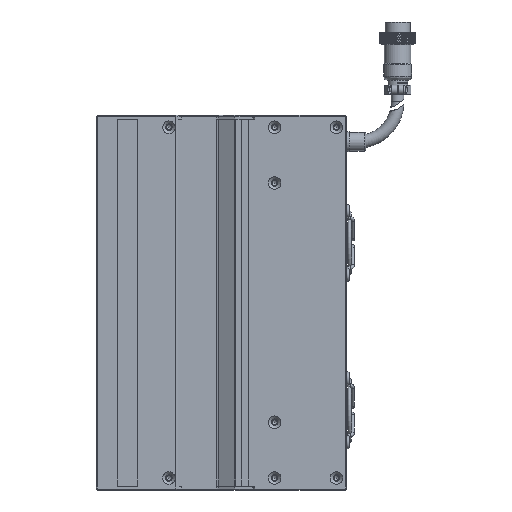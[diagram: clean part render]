
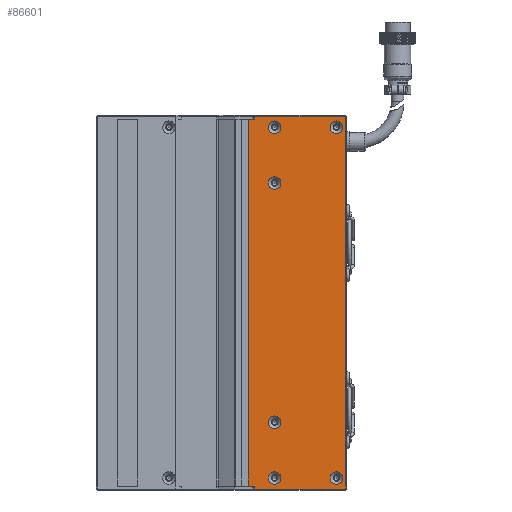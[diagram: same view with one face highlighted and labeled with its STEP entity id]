
A CAD part, left-side view. The second image highlights one B-rep face of the part: STEP entity #86601.
In plain terms, the highlighted planar face has unit normal (-1, 0, 0).
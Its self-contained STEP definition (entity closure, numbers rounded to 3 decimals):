
#8 = LINE ( 'NONE', #36167, #56750 ) ;
#214 = DIRECTION ( 'NONE',  ( -1., 0., 0. ) ) ;
#528 = AXIS2_PLACEMENT_3D ( 'NONE', #125225, #96102, #7692 ) ;
#568 = FACE_BOUND ( 'NONE', #23927, .T. ) ;
#2217 = CARTESIAN_POINT ( 'NONE',  ( -24.998, -36.5, 63.15 ) ) ;
#5120 = FACE_BOUND ( 'NONE', #82177, .T. ) ;
#5391 = CARTESIAN_POINT ( 'NONE',  ( -24.998, -67.5, -88. ) ) ;
#6363 = EDGE_CURVE ( 'NONE', #110338, #87523, #33229, .T. ) ;
#6391 = EDGE_CURVE ( 'NONE', #40265, #40265, #74718, .T. ) ;
#6816 = ORIENTED_EDGE ( 'NONE', *, *, #97893, .T. ) ;
#7692 = DIRECTION ( 'NONE',  ( 0., 0., -1. ) ) ;
#8779 = ORIENTED_EDGE ( 'NONE', *, *, #69335, .T. ) ;
#10389 = CARTESIAN_POINT ( 'NONE',  ( -24.998, -67.5, 91.15 ) ) ;
#12372 = DIRECTION ( 'NONE',  ( 0., 0., -1. ) ) ;
#12420 = DIRECTION ( 'NONE',  ( 0., 0., 1. ) ) ;
#15331 = DIRECTION ( 'NONE',  ( -1., 0., 0. ) ) ;
#16812 = CARTESIAN_POINT ( 'NONE',  ( -24.998, -36.5, 91.15 ) ) ;
#17115 = PLANE ( 'NONE',  #528 ) ;
#18316 = ORIENTED_EDGE ( 'NONE', *, *, #98687, .F. ) ;
#20728 = AXIS2_PLACEMENT_3D ( 'NONE', #114040, #15331, #123874 ) ;
#21912 = CARTESIAN_POINT ( 'NONE',  ( -24.998, -36.5, -84.85 ) ) ;
#21944 = FACE_BOUND ( 'NONE', #99614, .T. ) ;
#22728 = VECTOR ( 'NONE', #104484, 1000. ) ;
#22959 = CARTESIAN_POINT ( 'NONE',  ( -24.998, -26.5, 93.5 ) ) ;
#23824 = DIRECTION ( 'NONE',  ( 0., 0., 1. ) ) ;
#23927 = EDGE_LOOP ( 'NONE', ( #120684 ) ) ;
#23997 = ORIENTED_EDGE ( 'NONE', *, *, #124547, .T. ) ;
#24629 = LINE ( 'NONE', #33866, #72304 ) ;
#29066 = VERTEX_POINT ( 'NONE', #115863 ) ;
#29302 = ORIENTED_EDGE ( 'NONE', *, *, #6363, .F. ) ;
#29562 = CARTESIAN_POINT ( 'NONE',  ( -24.998, -72., -93.5 ) ) ;
#30918 = CARTESIAN_POINT ( 'NONE',  ( -24.998, -36.5, -88. ) ) ;
#31340 = DIRECTION ( 'NONE',  ( -1., 0., 0. ) ) ;
#31581 = DIRECTION ( 'NONE',  ( 0., 0., 1. ) ) ;
#32362 = AXIS2_PLACEMENT_3D ( 'NONE', #5391, #34546, #23824 ) ;
#32670 = CARTESIAN_POINT ( 'NONE',  ( -24.998, -67.5, -84.85 ) ) ;
#33229 = LINE ( 'NONE', #104574, #41023 ) ;
#33866 = CARTESIAN_POINT ( 'NONE',  ( -24.998, -72.5, 92. ) ) ;
#34546 = DIRECTION ( 'NONE',  ( -1., 0., 0. ) ) ;
#36167 = CARTESIAN_POINT ( 'NONE',  ( -24.998, -72.5, -93.5 ) ) ;
#37214 = DIRECTION ( 'NONE',  ( 0., 0., 1. ) ) ;
#38951 = EDGE_CURVE ( 'NONE', #86643, #110338, #8, .T. ) ;
#39917 = AXIS2_PLACEMENT_3D ( 'NONE', #58231, #46710, #37214 ) ;
#40265 = VERTEX_POINT ( 'NONE', #16812 ) ;
#40567 = ORIENTED_EDGE ( 'NONE', *, *, #6391, .F. ) ;
#41012 = CIRCLE ( 'NONE', #32362, 3.15 ) ;
#41023 = VECTOR ( 'NONE', #56124, 1000. ) ;
#41444 = VECTOR ( 'NONE', #105966, 1000. ) ;
#44356 = LINE ( 'NONE', #96776, #22728 ) ;
#46710 = DIRECTION ( 'NONE',  ( -1., 0., 0. ) ) ;
#47765 = EDGE_CURVE ( 'NONE', #113825, #113825, #57405, .T. ) ;
#48145 = FACE_BOUND ( 'NONE', #80107, .T. ) ;
#49407 = ORIENTED_EDGE ( 'NONE', *, *, #102368, .F. ) ;
#50751 = EDGE_LOOP ( 'NONE', ( #18316 ) ) ;
#55767 = LINE ( 'NONE', #57956, #68084 ) ;
#56124 = DIRECTION ( 'NONE',  ( 0., 0., 1. ) ) ;
#56750 = VECTOR ( 'NONE', #124935, 1000. ) ;
#56991 = VERTEX_POINT ( 'NONE', #2217 ) ;
#57405 = CIRCLE ( 'NONE', #80792, 3.15 ) ;
#57547 = CARTESIAN_POINT ( 'NONE',  ( -24.998, -72.5, -92. ) ) ;
#57956 = CARTESIAN_POINT ( 'NONE',  ( -24.998, -72.5, 93.5 ) ) ;
#57974 = ORIENTED_EDGE ( 'NONE', *, *, #68053, .F. ) ;
#58231 = CARTESIAN_POINT ( 'NONE',  ( -24.998, -36.5, 60. ) ) ;
#58600 = VERTEX_POINT ( 'NONE', #32670 ) ;
#62609 = CARTESIAN_POINT ( 'NONE',  ( -24.998, -26.5, 85. ) ) ;
#64021 = VERTEX_POINT ( 'NONE', #120234 ) ;
#66236 = VERTEX_POINT ( 'NONE', #21912 ) ;
#66378 = VERTEX_POINT ( 'NONE', #104626 ) ;
#66954 = EDGE_CURVE ( 'NONE', #72490, #72490, #87869, .T. ) ;
#68053 = EDGE_CURVE ( 'NONE', #95626, #64021, #44356, .T. ) ;
#68084 = VECTOR ( 'NONE', #106383, 1000. ) ;
#68433 = DIRECTION ( 'NONE',  ( 0., 0., 1. ) ) ;
#69335 = EDGE_CURVE ( 'NONE', #95626, #87523, #72064, .T. ) ;
#69362 = ORIENTED_EDGE ( 'NONE', *, *, #83981, .F. ) ;
#72064 = LINE ( 'NONE', #57547, #41444 ) ;
#72092 = CIRCLE ( 'NONE', #88669, 3.15 ) ;
#72304 = VECTOR ( 'NONE', #121800, 1000. ) ;
#72490 = VERTEX_POINT ( 'NONE', #80309 ) ;
#74718 = CIRCLE ( 'NONE', #20728, 3.15 ) ;
#76470 = ORIENTED_EDGE ( 'NONE', *, *, #66954, .F. ) ;
#80107 = EDGE_LOOP ( 'NONE', ( #113300 ) ) ;
#80309 = CARTESIAN_POINT ( 'NONE',  ( -24.998, -36.5, -56.85 ) ) ;
#80495 = DIRECTION ( 'NONE',  ( -1., 0., 0. ) ) ;
#80792 = AXIS2_PLACEMENT_3D ( 'NONE', #89988, #80495, #31581 ) ;
#81940 = FACE_BOUND ( 'NONE', #50751, .T. ) ;
#82120 = ORIENTED_EDGE ( 'NONE', *, *, #38951, .F. ) ;
#82177 = EDGE_LOOP ( 'NONE', ( #49407 ) ) ;
#83981 = EDGE_CURVE ( 'NONE', #64021, #66378, #24629, .T. ) ;
#84676 = CARTESIAN_POINT ( 'NONE',  ( -24.998, -26.5, -92. ) ) ;
#86601 = ADVANCED_FACE ( 'NONE', ( #568, #5120, #106392, #48145, #21944, #81940, #123266 ), #17115, .F. ) ;
#86643 = VERTEX_POINT ( 'NONE', #29562 ) ;
#87523 = VERTEX_POINT ( 'NONE', #84676 ) ;
#87869 = CIRCLE ( 'NONE', #114617, 3.15 ) ;
#88445 = CIRCLE ( 'NONE', #39917, 3.15 ) ;
#88669 = AXIS2_PLACEMENT_3D ( 'NONE', #30918, #31340, #12420 ) ;
#89988 = CARTESIAN_POINT ( 'NONE',  ( -24.998, -67.5, 88. ) ) ;
#91622 = VECTOR ( 'NONE', #97144, 1000. ) ;
#93091 = LINE ( 'NONE', #127140, #91622 ) ;
#95626 = VERTEX_POINT ( 'NONE', #122115 ) ;
#96102 = DIRECTION ( 'NONE',  ( 1., 0., 0. ) ) ;
#96776 = CARTESIAN_POINT ( 'NONE',  ( -24.998, -23.25, -92. ) ) ;
#97144 = DIRECTION ( 'NONE',  ( 0., 0., 1. ) ) ;
#97612 = CARTESIAN_POINT ( 'NONE',  ( -24.998, -36.5, -60. ) ) ;
#97678 = EDGE_CURVE ( 'NONE', #58600, #58600, #41012, .T. ) ;
#97893 = EDGE_CURVE ( 'NONE', #86643, #29066, #93091, .T. ) ;
#98298 = ORIENTED_EDGE ( 'NONE', *, *, #111936, .T. ) ;
#98687 = EDGE_CURVE ( 'NONE', #56991, #56991, #88445, .T. ) ;
#99614 = EDGE_LOOP ( 'NONE', ( #76470 ) ) ;
#102368 = EDGE_CURVE ( 'NONE', #66236, #66236, #72092, .T. ) ;
#104484 = DIRECTION ( 'NONE',  ( 0., 0., 1. ) ) ;
#104574 = CARTESIAN_POINT ( 'NONE',  ( -24.998, -26.5, -85. ) ) ;
#104626 = CARTESIAN_POINT ( 'NONE',  ( -24.998, -26.5, 92. ) ) ;
#105966 = DIRECTION ( 'NONE',  ( 0., -1., 0. ) ) ;
#106383 = DIRECTION ( 'NONE',  ( 0., 1., 0. ) ) ;
#106392 = FACE_BOUND ( 'NONE', #113946, .T. ) ;
#108160 = LINE ( 'NONE', #62609, #121923 ) ;
#110338 = VERTEX_POINT ( 'NONE', #119049 ) ;
#111936 = EDGE_CURVE ( 'NONE', #29066, #123472, #55767, .T. ) ;
#113300 = ORIENTED_EDGE ( 'NONE', *, *, #47765, .F. ) ;
#113825 = VERTEX_POINT ( 'NONE', #10389 ) ;
#113946 = EDGE_LOOP ( 'NONE', ( #40567 ) ) ;
#114040 = CARTESIAN_POINT ( 'NONE',  ( -24.998, -36.5, 88. ) ) ;
#114617 = AXIS2_PLACEMENT_3D ( 'NONE', #97612, #214, #68433 ) ;
#115863 = CARTESIAN_POINT ( 'NONE',  ( -24.998, -72., 93.5 ) ) ;
#119049 = CARTESIAN_POINT ( 'NONE',  ( -24.998, -26.5, -93.5 ) ) ;
#120234 = CARTESIAN_POINT ( 'NONE',  ( -24.998, -23.25, 92. ) ) ;
#120684 = ORIENTED_EDGE ( 'NONE', *, *, #97678, .F. ) ;
#121800 = DIRECTION ( 'NONE',  ( 0., -1., 0. ) ) ;
#121923 = VECTOR ( 'NONE', #12372, 1000. ) ;
#122115 = CARTESIAN_POINT ( 'NONE',  ( -24.998, -23.25, -92. ) ) ;
#123266 = FACE_OUTER_BOUND ( 'NONE', #124220, .T. ) ;
#123472 = VERTEX_POINT ( 'NONE', #22959 ) ;
#123874 = DIRECTION ( 'NONE',  ( 0., 0., 1. ) ) ;
#124220 = EDGE_LOOP ( 'NONE', ( #8779, #29302, #82120, #6816, #98298, #23997, #69362, #57974 ) ) ;
#124547 = EDGE_CURVE ( 'NONE', #123472, #66378, #108160, .T. ) ;
#124935 = DIRECTION ( 'NONE',  ( 0., 1., 0. ) ) ;
#125225 = CARTESIAN_POINT ( 'NONE',  ( -24.998, -72.5, 92. ) ) ;
#127140 = CARTESIAN_POINT ( 'NONE',  ( -24.998, -72., 92. ) ) ;
